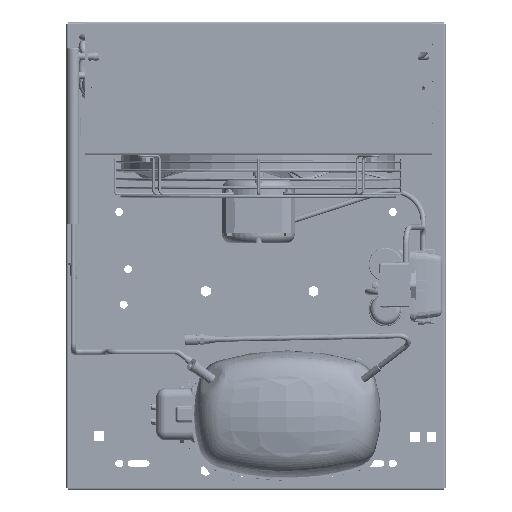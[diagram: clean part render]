
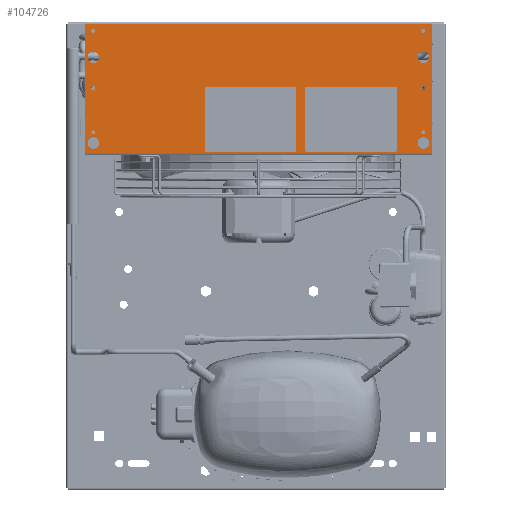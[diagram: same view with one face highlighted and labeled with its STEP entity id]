
A CAD part, top view. The second image highlights one B-rep face of the part: STEP entity #104726.
In plain terms, the highlighted planar face has unit normal (0, 0, 1).
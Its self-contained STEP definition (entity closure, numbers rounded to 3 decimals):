
#9603=LINE('',#172235,#16282);
#9652=LINE('',#172411,#16331);
#9655=LINE('',#172419,#16334);
#9656=LINE('',#172441,#16335);
#16282=VECTOR('',#148384,1000.);
#16331=VECTOR('',#148529,1000.);
#16334=VECTOR('',#148538,1000.);
#16335=VECTOR('',#148561,1000.);
#25626=ORIENTED_EDGE('',*,*,#54390,.F.);
#25627=ORIENTED_EDGE('',*,*,#54391,.F.);
#25628=ORIENTED_EDGE('',*,*,#54392,.F.);
#25629=ORIENTED_EDGE('',*,*,#54393,.F.);
#25630=ORIENTED_EDGE('',*,*,#54394,.F.);
#25631=ORIENTED_EDGE('',*,*,#54395,.F.);
#25632=ORIENTED_EDGE('',*,*,#54396,.F.);
#25633=ORIENTED_EDGE('',*,*,#54397,.F.);
#25634=ORIENTED_EDGE('',*,*,#54398,.F.);
#25635=ORIENTED_EDGE('',*,*,#54399,.F.);
#25636=ORIENTED_EDGE('',*,*,#54385,.T.);
#25637=ORIENTED_EDGE('',*,*,#54400,.F.);
#25638=ORIENTED_EDGE('',*,*,#54296,.F.);
#25639=ORIENTED_EDGE('',*,*,#54389,.T.);
#54296=EDGE_CURVE('',#69209,#69210,#9603,.T.);
#54385=EDGE_CURVE('',#69289,#69288,#9652,.T.);
#54389=EDGE_CURVE('',#69209,#69289,#9655,.T.);
#54390=EDGE_CURVE('',#69291,#69291,#79412,.T.);
#54391=EDGE_CURVE('',#69292,#69292,#79413,.T.);
#54392=EDGE_CURVE('',#69293,#69293,#79414,.T.);
#54393=EDGE_CURVE('',#69294,#69294,#79415,.T.);
#54394=EDGE_CURVE('',#69295,#69295,#79416,.T.);
#54395=EDGE_CURVE('',#69296,#69296,#79417,.T.);
#54396=EDGE_CURVE('',#69297,#69297,#79418,.T.);
#54397=EDGE_CURVE('',#69298,#69298,#79419,.T.);
#54398=EDGE_CURVE('',#69299,#69299,#79420,.T.);
#54399=EDGE_CURVE('',#69300,#69300,#79421,.T.);
#54400=EDGE_CURVE('',#69210,#69288,#9656,.T.);
#69209=VERTEX_POINT('',#172234);
#69210=VERTEX_POINT('',#172236);
#69288=VERTEX_POINT('',#172410);
#69289=VERTEX_POINT('',#172412);
#69291=VERTEX_POINT('',#172422);
#69292=VERTEX_POINT('',#172424);
#69293=VERTEX_POINT('',#172426);
#69294=VERTEX_POINT('',#172428);
#69295=VERTEX_POINT('',#172430);
#69296=VERTEX_POINT('',#172432);
#69297=VERTEX_POINT('',#172434);
#69298=VERTEX_POINT('',#172436);
#69299=VERTEX_POINT('',#172438);
#69300=VERTEX_POINT('',#172440);
#79412=CIRCLE('',#137090,6.5);
#79413=CIRCLE('',#137091,6.5);
#79414=CIRCLE('',#137092,6.5);
#79415=CIRCLE('',#137093,6.5);
#79416=CIRCLE('',#137094,2.25);
#79417=CIRCLE('',#137095,2.25);
#79418=CIRCLE('',#137096,2.25);
#79419=CIRCLE('',#137097,2.25);
#79420=CIRCLE('',#137098,2.25);
#79421=CIRCLE('',#137099,2.25);
#83169=EDGE_LOOP('',(#25626));
#83170=EDGE_LOOP('',(#25627));
#83171=EDGE_LOOP('',(#25628));
#83172=EDGE_LOOP('',(#25629));
#83173=EDGE_LOOP('',(#25630));
#83174=EDGE_LOOP('',(#25631));
#83175=EDGE_LOOP('',(#25632));
#83176=EDGE_LOOP('',(#25633));
#83177=EDGE_LOOP('',(#25634));
#83178=EDGE_LOOP('',(#25635));
#83179=EDGE_LOOP('',(#25636,#25637,#25638,#25639));
#92406=FACE_BOUND('',#83169,.T.);
#92407=FACE_BOUND('',#83170,.T.);
#92408=FACE_BOUND('',#83171,.T.);
#92409=FACE_BOUND('',#83172,.T.);
#92410=FACE_BOUND('',#83173,.T.);
#92411=FACE_BOUND('',#83174,.T.);
#92412=FACE_BOUND('',#83175,.T.);
#92413=FACE_BOUND('',#83176,.T.);
#92414=FACE_BOUND('',#83177,.T.);
#92415=FACE_BOUND('',#83178,.T.);
#92416=FACE_BOUND('',#83179,.T.);
#99955=PLANE('',#137089);
#104726=ADVANCED_FACE('',(#92406,#92407,#92408,#92409,#92410,#92411,#92412,
#92413,#92414,#92415,#92416),#99955,.F.);
#137089=AXIS2_PLACEMENT_3D('',#172420,#148539,#148540);
#137090=AXIS2_PLACEMENT_3D('',#172421,#148541,#148542);
#137091=AXIS2_PLACEMENT_3D('',#172423,#148543,#148544);
#137092=AXIS2_PLACEMENT_3D('',#172425,#148545,#148546);
#137093=AXIS2_PLACEMENT_3D('',#172427,#148547,#148548);
#137094=AXIS2_PLACEMENT_3D('',#172429,#148549,#148550);
#137095=AXIS2_PLACEMENT_3D('',#172431,#148551,#148552);
#137096=AXIS2_PLACEMENT_3D('',#172433,#148553,#148554);
#137097=AXIS2_PLACEMENT_3D('',#172435,#148555,#148556);
#137098=AXIS2_PLACEMENT_3D('',#172437,#148557,#148558);
#137099=AXIS2_PLACEMENT_3D('',#172439,#148559,#148560);
#148384=DIRECTION('',(0.,1.,0.));
#148529=DIRECTION('',(0.,1.,0.));
#148538=DIRECTION('',(1.,0.,0.));
#148539=DIRECTION('',(0.,0.,-1.));
#148540=DIRECTION('',(-1.,0.,0.));
#148541=DIRECTION('',(0.,0.,1.));
#148542=DIRECTION('',(-1.,0.,0.));
#148543=DIRECTION('',(0.,0.,1.));
#148544=DIRECTION('',(-1.,0.,0.));
#148545=DIRECTION('',(0.,0.,1.));
#148546=DIRECTION('',(-1.,0.,0.));
#148547=DIRECTION('',(0.,0.,1.));
#148548=DIRECTION('',(-1.,0.,0.));
#148549=DIRECTION('',(0.,0.,1.));
#148550=DIRECTION('',(-1.,0.,0.));
#148551=DIRECTION('',(0.,0.,1.));
#148552=DIRECTION('',(-1.,0.,0.));
#148553=DIRECTION('',(0.,0.,1.));
#148554=DIRECTION('',(-1.,0.,0.));
#148555=DIRECTION('',(0.,0.,1.));
#148556=DIRECTION('',(-1.,0.,0.));
#148557=DIRECTION('',(0.,0.,1.));
#148558=DIRECTION('',(-1.,0.,0.));
#148559=DIRECTION('',(0.,0.,1.));
#148560=DIRECTION('',(-1.,0.,0.));
#148561=DIRECTION('',(1.,0.,0.));
#172234=CARTESIAN_POINT('',(-197.,-73.1,0.));
#172235=CARTESIAN_POINT('',(-197.,-75.1,0.));
#172236=CARTESIAN_POINT('',(-197.,73.1,0.));
#172410=CARTESIAN_POINT('',(197.,73.1,0.));
#172411=CARTESIAN_POINT('',(197.,-75.1,0.));
#172412=CARTESIAN_POINT('',(197.,-73.1,0.));
#172419=CARTESIAN_POINT('',(-197.,-73.1,0.));
#172420=CARTESIAN_POINT('',(-197.,-75.1,0.));
#172421=CARTESIAN_POINT('',(-187.,-35.1,0.));
#172422=CARTESIAN_POINT('',(-193.5,-35.1,0.));
#172423=CARTESIAN_POINT('',(187.,-35.1,0.));
#172424=CARTESIAN_POINT('',(180.5,-35.1,0.));
#172425=CARTESIAN_POINT('',(187.,62.1,0.));
#172426=CARTESIAN_POINT('',(180.5,62.1,0.));
#172427=CARTESIAN_POINT('',(-187.,62.1,0.));
#172428=CARTESIAN_POINT('',(-193.5,62.1,0.));
#172429=CARTESIAN_POINT('',(-187.,-65.1,0.));
#172430=CARTESIAN_POINT('',(-189.25,-65.1,0.));
#172431=CARTESIAN_POINT('',(187.,-65.1,0.));
#172432=CARTESIAN_POINT('',(184.75,-65.1,0.));
#172433=CARTESIAN_POINT('',(187.,-0.1,0.));
#172434=CARTESIAN_POINT('',(184.75,-0.1,0.));
#172435=CARTESIAN_POINT('',(-187.,-0.1,0.));
#172436=CARTESIAN_POINT('',(-189.25,-0.1,0.));
#172437=CARTESIAN_POINT('',(-187.,49.9,0.));
#172438=CARTESIAN_POINT('',(-189.25,49.9,0.));
#172439=CARTESIAN_POINT('',(187.,49.9,0.));
#172440=CARTESIAN_POINT('',(184.75,49.9,0.));
#172441=CARTESIAN_POINT('',(-197.,73.1,0.));
